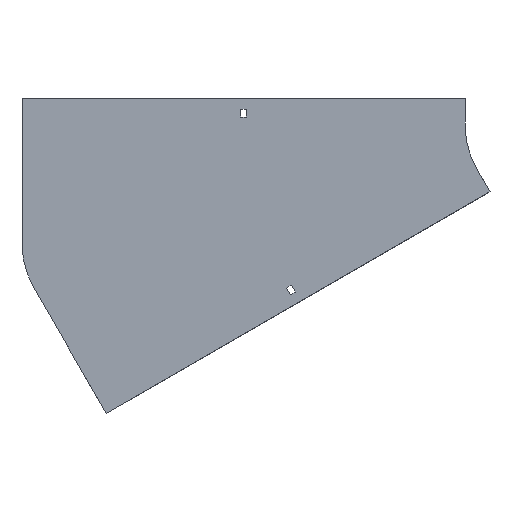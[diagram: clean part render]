
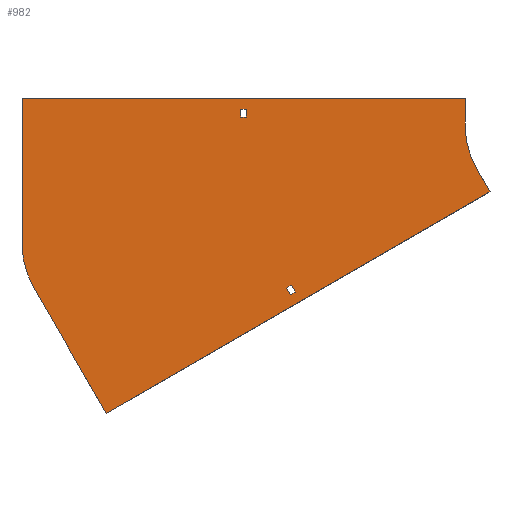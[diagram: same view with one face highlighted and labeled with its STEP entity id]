
A CAD part, front view. The second image highlights one B-rep face of the part: STEP entity #982.
In plain terms, the highlighted planar face has unit normal (0, -1, 0).
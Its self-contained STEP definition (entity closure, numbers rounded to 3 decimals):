
#14 = ORIENTED_EDGE ( 'NONE', *, *, #578, .F. ) ;
#22 = FACE_OUTER_BOUND ( 'NONE', #1772, .T. ) ;
#25 = ORIENTED_EDGE ( 'NONE', *, *, #1951, .F. ) ;
#26 = DIRECTION ( 'NONE',  ( -0.866, 0., -0.5 ) ) ;
#32 = AXIS2_PLACEMENT_3D ( 'NONE', #1238, #931, #787 ) ;
#53 = DIRECTION ( 'NONE',  ( 0.5, 0., -0.866 ) ) ;
#89 = CIRCLE ( 'NONE', #1565, 100. ) ;
#100 = CARTESIAN_POINT ( 'NONE',  ( -86.603, 0., -50. ) ) ;
#103 = ORIENTED_EDGE ( 'NONE', *, *, #1733, .F. ) ;
#104 = CARTESIAN_POINT ( 'NONE',  ( -355.25, 0., 18. ) ) ;
#105 = VECTOR ( 'NONE', #610, 1000. ) ;
#118 = ORIENTED_EDGE ( 'NONE', *, *, #1239, .F. ) ;
#149 = VECTOR ( 'NONE', #1514, 1000. ) ;
#161 = VERTEX_POINT ( 'NONE', #167 ) ;
#167 = CARTESIAN_POINT ( 'NONE',  ( -604., 0., 30. ) ) ;
#175 = CARTESIAN_POINT ( 'NONE',  ( -348.75, 0., 9. ) ) ;
#180 = FACE_BOUND ( 'NONE', #859, .T. ) ;
#181 = CARTESIAN_POINT ( 'NONE',  ( -100., 0., 30. ) ) ;
#227 = CARTESIAN_POINT ( 'NONE',  ( -86.603, 0., -50. ) ) ;
#230 = EDGE_CURVE ( 'NONE', #333, #329, #326, .T. ) ;
#244 = LINE ( 'NONE', #988, #685 ) ;
#251 = CARTESIAN_POINT ( 'NONE',  ( -303.156, 0., -185.419 ) ) ;
#256 = VECTOR ( 'NONE', #1823, 1000. ) ;
#276 = VECTOR ( 'NONE', #1557, 1000. ) ;
#296 = EDGE_CURVE ( 'NONE', #893, #333, #1710, .T. ) ;
#303 = ORIENTED_EDGE ( 'NONE', *, *, #296, .T. ) ;
#304 = ORIENTED_EDGE ( 'NONE', *, *, #1528, .F. ) ;
#305 = DIRECTION ( 'NONE',  ( 0., 0., -1. ) ) ;
#326 = LINE ( 'NONE', #1399, #105 ) ;
#329 = VERTEX_POINT ( 'NONE', #408 ) ;
#333 = VERTEX_POINT ( 'NONE', #540 ) ;
#358 = DIRECTION ( 'NONE',  ( 0., 0., -1. ) ) ;
#367 = LINE ( 'NONE', #668, #805 ) ;
#369 = EDGE_CURVE ( 'NONE', #1076, #161, #1418, .T. ) ;
#372 = AXIS2_PLACEMENT_3D ( 'NONE', #763, #1234, #1693 ) ;
#385 = DIRECTION ( 'NONE',  ( 0., 0., 1. ) ) ;
#395 = CARTESIAN_POINT ( 'NONE',  ( -298.656, 0., -193.213 ) ) ;
#396 = VERTEX_POINT ( 'NONE', #251 ) ;
#403 = VERTEX_POINT ( 'NONE', #104 ) ;
#408 = CARTESIAN_POINT ( 'NONE',  ( -355.25, 0., 9. ) ) ;
#425 = ORIENTED_EDGE ( 'NONE', *, *, #691, .F. ) ;
#432 = EDGE_CURVE ( 'NONE', #475, #1371, #89, .T. ) ;
#475 = VERTEX_POINT ( 'NONE', #862 ) ;
#504 = CARTESIAN_POINT ( 'NONE',  ( -604., 0., 30. ) ) ;
#534 = CARTESIAN_POINT ( 'NONE',  ( -71.603, 0., -75.981 ) ) ;
#540 = CARTESIAN_POINT ( 'NONE',  ( -348.75, 0., 9. ) ) ;
#578 = EDGE_CURVE ( 'NONE', #784, #396, #608, .T. ) ;
#590 = CARTESIAN_POINT ( 'NONE',  ( -293.026, 0., -189.963 ) ) ;
#608 = LINE ( 'NONE', #930, #1632 ) ;
#610 = DIRECTION ( 'NONE',  ( -1., 0., 0. ) ) ;
#627 = LINE ( 'NONE', #650, #1133 ) ;
#629 = EDGE_CURVE ( 'NONE', #396, #1606, #627, .T. ) ;
#634 = VERTEX_POINT ( 'NONE', #1397 ) ;
#635 = FACE_BOUND ( 'NONE', #1664, .T. ) ;
#650 = CARTESIAN_POINT ( 'NONE',  ( -303.156, 0., -185.419 ) ) ;
#668 = CARTESIAN_POINT ( 'NONE',  ( -355.25, 0., 9. ) ) ;
#671 = CARTESIAN_POINT ( 'NONE',  ( -298.656, 0., -193.213 ) ) ;
#674 = DIRECTION ( 'NONE',  ( 0.866, 0., 0.5 ) ) ;
#685 = VECTOR ( 'NONE', #1008, 1000. ) ;
#691 = EDGE_CURVE ( 'NONE', #1649, #1795, #959, .T. ) ;
#694 = ORIENTED_EDGE ( 'NONE', *, *, #1705, .T. ) ;
#712 = EDGE_CURVE ( 'NONE', #329, #403, #367, .T. ) ;
#763 = CARTESIAN_POINT ( 'NONE',  ( 0., 0., 0. ) ) ;
#767 = EDGE_CURVE ( 'NONE', #1371, #1025, #1268, .T. ) ;
#773 = VECTOR ( 'NONE', #1723, 1000. ) ;
#784 = VERTEX_POINT ( 'NONE', #1881 ) ;
#787 = DIRECTION ( 'NONE',  ( 0., 0., 1. ) ) ;
#802 = LINE ( 'NONE', #181, #1402 ) ;
#805 = VECTOR ( 'NONE', #385, 1000. ) ;
#808 = CARTESIAN_POINT ( 'NONE',  ( -297.526, 0., -182.169 ) ) ;
#827 = CARTESIAN_POINT ( 'NONE',  ( -604., 0., -135.046 ) ) ;
#859 = EDGE_LOOP ( 'NONE', ( #1027, #1479, #14, #304 ) ) ;
#862 = CARTESIAN_POINT ( 'NONE',  ( -100., 0., 0. ) ) ;
#886 = ORIENTED_EDGE ( 'NONE', *, *, #369, .F. ) ;
#890 = VECTOR ( 'NONE', #674, 1000. ) ;
#893 = VERTEX_POINT ( 'NONE', #1773 ) ;
#915 = CARTESIAN_POINT ( 'NONE',  ( -71.603, 0., -75.981 ) ) ;
#930 = CARTESIAN_POINT ( 'NONE',  ( -303.156, 0., -185.419 ) ) ;
#931 = DIRECTION ( 'NONE',  ( 0., 1., 0. ) ) ;
#934 = ORIENTED_EDGE ( 'NONE', *, *, #432, .F. ) ;
#945 = ORIENTED_EDGE ( 'NONE', *, *, #712, .T. ) ;
#959 = LINE ( 'NONE', #1857, #773 ) ;
#967 = ORIENTED_EDGE ( 'NONE', *, *, #230, .T. ) ;
#982 = ADVANCED_FACE ( 'NONE', ( #635, #22, #180 ), #1218, .T. ) ;
#984 = ORIENTED_EDGE ( 'NONE', *, *, #767, .F. ) ;
#988 = CARTESIAN_POINT ( 'NONE',  ( -355.25, 0., 18. ) ) ;
#1008 = DIRECTION ( 'NONE',  ( 1., 0., 0. ) ) ;
#1025 = VERTEX_POINT ( 'NONE', #915 ) ;
#1027 = ORIENTED_EDGE ( 'NONE', *, *, #1350, .F. ) ;
#1076 = VERTEX_POINT ( 'NONE', #1684 ) ;
#1133 = VECTOR ( 'NONE', #53, 1000. ) ;
#1193 = EDGE_CURVE ( 'NONE', #634, #475, #802, .T. ) ;
#1218 = PLANE ( 'NONE',  #372 ) ;
#1234 = DIRECTION ( 'NONE',  ( 0., -1., 0. ) ) ;
#1238 = CARTESIAN_POINT ( 'NONE',  ( -504., 0., -135.046 ) ) ;
#1239 = EDGE_CURVE ( 'NONE', #161, #634, #1854, .T. ) ;
#1241 = CARTESIAN_POINT ( 'NONE',  ( -508.079, 0., -327.981 ) ) ;
#1268 = LINE ( 'NONE', #227, #276 ) ;
#1282 = ORIENTED_EDGE ( 'NONE', *, *, #1193, .F. ) ;
#1329 = DIRECTION ( 'NONE',  ( -0.866, 0., -0.5 ) ) ;
#1350 = EDGE_CURVE ( 'NONE', #1606, #1833, #1435, .T. ) ;
#1371 = VERTEX_POINT ( 'NONE', #100 ) ;
#1397 = CARTESIAN_POINT ( 'NONE',  ( -100., 0., 30. ) ) ;
#1399 = CARTESIAN_POINT ( 'NONE',  ( -355.25, 0., 9. ) ) ;
#1402 = VECTOR ( 'NONE', #358, 1000. ) ;
#1411 = LINE ( 'NONE', #808, #1595 ) ;
#1418 = LINE ( 'NONE', #827, #1950 ) ;
#1435 = LINE ( 'NONE', #395, #890 ) ;
#1479 = ORIENTED_EDGE ( 'NONE', *, *, #629, .F. ) ;
#1514 = DIRECTION ( 'NONE',  ( 1., 0., 0. ) ) ;
#1528 = EDGE_CURVE ( 'NONE', #1833, #784, #1411, .T. ) ;
#1557 = DIRECTION ( 'NONE',  ( 0.5, 0., -0.866 ) ) ;
#1565 = AXIS2_PLACEMENT_3D ( 'NONE', #1640, #1766, #305 ) ;
#1575 = LINE ( 'NONE', #534, #1791 ) ;
#1595 = VECTOR ( 'NONE', #1868, 1000. ) ;
#1606 = VERTEX_POINT ( 'NONE', #671 ) ;
#1632 = VECTOR ( 'NONE', #26, 1000. ) ;
#1640 = CARTESIAN_POINT ( 'NONE',  ( 0., 0., 0. ) ) ;
#1649 = VERTEX_POINT ( 'NONE', #1241 ) ;
#1664 = EDGE_LOOP ( 'NONE', ( #945, #694, #303, #967 ) ) ;
#1684 = CARTESIAN_POINT ( 'NONE',  ( -604., 0., -135.046 ) ) ;
#1693 = DIRECTION ( 'NONE',  ( 0., 0., -1. ) ) ;
#1697 = CIRCLE ( 'NONE', #32, 100. ) ;
#1705 = EDGE_CURVE ( 'NONE', #403, #893, #244, .T. ) ;
#1710 = LINE ( 'NONE', #175, #256 ) ;
#1723 = DIRECTION ( 'NONE',  ( -0.5, 0., 0.866 ) ) ;
#1724 = DIRECTION ( 'NONE',  ( 0., 0., 1. ) ) ;
#1733 = EDGE_CURVE ( 'NONE', #1025, #1649, #1575, .T. ) ;
#1766 = DIRECTION ( 'NONE',  ( 0., -1., 0. ) ) ;
#1768 = CARTESIAN_POINT ( 'NONE',  ( -590.603, 0., -185.046 ) ) ;
#1772 = EDGE_LOOP ( 'NONE', ( #118, #886, #25, #425, #103, #984, #934, #1282 ) ) ;
#1773 = CARTESIAN_POINT ( 'NONE',  ( -348.75, 0., 18. ) ) ;
#1791 = VECTOR ( 'NONE', #1329, 1000. ) ;
#1795 = VERTEX_POINT ( 'NONE', #1768 ) ;
#1823 = DIRECTION ( 'NONE',  ( 0., 0., -1. ) ) ;
#1833 = VERTEX_POINT ( 'NONE', #590 ) ;
#1854 = LINE ( 'NONE', #504, #149 ) ;
#1857 = CARTESIAN_POINT ( 'NONE',  ( -508.079, 0., -327.981 ) ) ;
#1868 = DIRECTION ( 'NONE',  ( -0.5, 0., 0.866 ) ) ;
#1881 = CARTESIAN_POINT ( 'NONE',  ( -297.526, 0., -182.169 ) ) ;
#1950 = VECTOR ( 'NONE', #1724, 1000. ) ;
#1951 = EDGE_CURVE ( 'NONE', #1795, #1076, #1697, .T. ) ;
